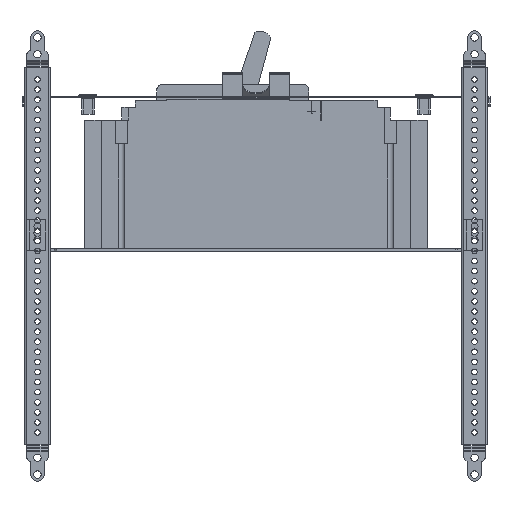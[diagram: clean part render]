
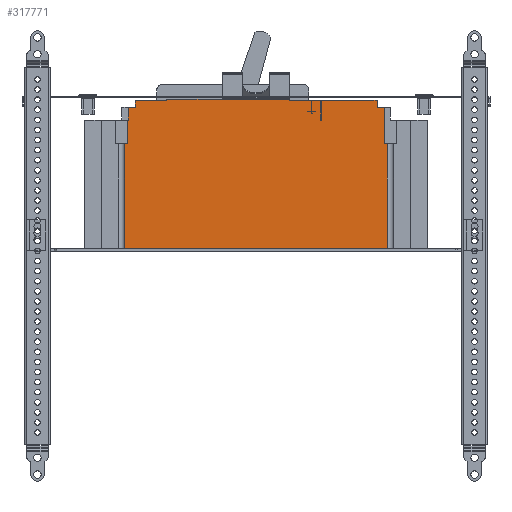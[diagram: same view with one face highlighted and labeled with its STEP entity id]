
A CAD part, left-side view. The second image highlights one B-rep face of the part: STEP entity #317771.
In plain terms, the highlighted planar face has unit normal (-1, 0, 0).
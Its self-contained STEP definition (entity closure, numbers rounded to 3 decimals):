
#315726=CARTESIAN_POINT(' ',(-214.311,-45.217,44.353));
#315731=DIRECTION(' ',(0.,1.,0.));
#315736=VECTOR(' ',#315731,1.);
#315741=LINE('',#315726,#315736);
#315746=CARTESIAN_POINT(' ',(-214.311,-45.217,44.353));
#315747=VERTEX_POINT(' ',#315746);
#315751=CARTESIAN_POINT(' ',(-214.311,-21.717,44.353));
#315752=VERTEX_POINT(' ',#315751);
#315756=EDGE_CURVE(' ',#315747,#315752,#315741,.T.);
#316166=CARTESIAN_POINT(' ',(-214.311,69.283,44.353));
#316167=VERTEX_POINT(' ',#316166);
#316311=CARTESIAN_POINT(' ',(-214.311,92.783,44.353));
#316312=VERTEX_POINT(' ',#316311);
#316326=CARTESIAN_POINT(' ',(-214.311,69.283,44.353));
#316331=DIRECTION(' ',(0.,1.,0.));
#316336=VECTOR(' ',#316331,1.);
#316341=LINE('',#316326,#316336);
#316346=EDGE_CURVE(' ',#316167,#316312,#316341,.T.);
#316521=CARTESIAN_POINT(' ',(-214.311,69.283,45.353));
#316526=DIRECTION(' ',(0.,0.,-1.));
#316531=VECTOR(' ',#316526,1.);
#316536=LINE('',#316521,#316531);
#316541=CARTESIAN_POINT(' ',(-214.311,69.283,45.353));
#316542=VERTEX_POINT(' ',#316541);
#316546=EDGE_CURVE(' ',#316542,#316167,#316536,.T.);
#316631=CARTESIAN_POINT(' ',(-214.311,69.283,45.353));
#316636=DIRECTION(' ',(0.,-1.,0.));
#316641=VECTOR(' ',#316636,1.);
#316646=LINE('',#316631,#316641);
#316651=CARTESIAN_POINT(' ',(-214.311,-21.717,45.353));
#316652=VERTEX_POINT(' ',#316651);
#316656=EDGE_CURVE(' ',#316542,#316652,#316646,.T.);
#316756=CARTESIAN_POINT(' ',(-214.311,-21.717,45.353));
#316761=DIRECTION(' ',(0.,0.,-1.));
#316766=VECTOR(' ',#316761,1.);
#316771=LINE('',#316756,#316766);
#316776=EDGE_CURVE(' ',#316652,#315752,#316771,.T.);
#317121=DIRECTION(' ',(-1.,0.,0.));
#317126=CARTESIAN_POINT(' ',(-214.311,-94.422,-65.647));
#317131=DIRECTION(' ',(0.,-0.,1.));
#317136=AXIS2_PLACEMENT_3D(' ',#317126,#317121,#317131);
#317141=PLANE('NONE',#317136);
#317146=CARTESIAN_POINT(' ',(-214.311,-94.422,12.353));
#317151=DIRECTION(' ',(0.,1.,0.));
#317156=VECTOR(' ',#317151,1.);
#317161=LINE('',#317146,#317156);
#317166=CARTESIAN_POINT(' ',(-214.311,-94.422,12.353));
#317167=VERTEX_POINT(' ',#317166);
#317171=CARTESIAN_POINT(' ',(-214.311,-92.467,12.353));
#317172=VERTEX_POINT(' ',#317171);
#317176=EDGE_CURVE(' ',#317167,#317172,#317161,.T.);
#317181=ORIENTED_EDGE(' ',*,*,#317176,.T.);
#317186=CARTESIAN_POINT(' ',(-214.311,-92.467,39.353));
#317191=DIRECTION(' ',(0.,0.,-1.));
#317196=VECTOR(' ',#317191,1.);
#317201=LINE('',#317186,#317196);
#317206=CARTESIAN_POINT(' ',(-214.311,-92.467,39.353));
#317207=VERTEX_POINT(' ',#317206);
#317211=EDGE_CURVE(' ',#317207,#317172,#317201,.T.);
#317216=ORIENTED_EDGE(' ',*,*,#317211,.F.);
#317221=CARTESIAN_POINT(' ',(-214.311,-86.967,39.353));
#317226=DIRECTION(' ',(0.,-1.,0.));
#317231=VECTOR(' ',#317226,1.);
#317236=LINE('',#317221,#317231);
#317241=CARTESIAN_POINT(' ',(-214.311,-86.967,39.353));
#317242=VERTEX_POINT(' ',#317241);
#317246=EDGE_CURVE(' ',#317242,#317207,#317236,.T.);
#317251=ORIENTED_EDGE(' ',*,*,#317246,.F.);
#317256=CARTESIAN_POINT(' ',(-214.311,-86.967,44.753));
#317261=DIRECTION(' ',(0.,0.,-1.));
#317266=VECTOR(' ',#317261,1.);
#317271=LINE('',#317256,#317266);
#317276=CARTESIAN_POINT(' ',(-214.311,-86.967,44.753));
#317277=VERTEX_POINT(' ',#317276);
#317281=EDGE_CURVE(' ',#317277,#317242,#317271,.T.);
#317286=ORIENTED_EDGE(' ',*,*,#317281,.F.);
#317291=CARTESIAN_POINT(' ',(-214.311,-45.467,44.753));
#317296=DIRECTION(' ',(0.,-1.,0.));
#317301=VECTOR(' ',#317296,1.);
#317306=LINE('',#317291,#317301);
#317311=CARTESIAN_POINT(' ',(-214.311,-45.467,44.753));
#317312=VERTEX_POINT(' ',#317311);
#317316=EDGE_CURVE(' ',#317312,#317277,#317306,.T.);
#317321=ORIENTED_EDGE(' ',*,*,#317316,.F.);
#317326=CARTESIAN_POINT(' ',(-214.311,-45.467,29.853));
#317331=DIRECTION(' ',(0.,0.,1.));
#317336=VECTOR(' ',#317331,1.);
#317341=LINE('',#317326,#317336);
#317346=CARTESIAN_POINT(' ',(-214.311,-45.467,29.853));
#317347=VERTEX_POINT(' ',#317346);
#317351=EDGE_CURVE(' ',#317347,#317312,#317341,.T.);
#317356=ORIENTED_EDGE(' ',*,*,#317351,.F.);
#317361=CARTESIAN_POINT(' ',(-214.311,-45.217,29.853));
#317366=DIRECTION(' ',(0.,-1.,0.));
#317371=VECTOR(' ',#317366,1.);
#317376=LINE('',#317361,#317371);
#317381=CARTESIAN_POINT(' ',(-214.311,-45.217,29.853));
#317382=VERTEX_POINT(' ',#317381);
#317386=EDGE_CURVE(' ',#317382,#317347,#317376,.T.);
#317391=ORIENTED_EDGE(' ',*,*,#317386,.F.);
#317396=CARTESIAN_POINT(' ',(-214.311,-45.217,29.853));
#317401=DIRECTION(' ',(0.,0.,1.));
#317406=VECTOR(' ',#317401,1.);
#317411=LINE('',#317396,#317406);
#317416=EDGE_CURVE(' ',#317382,#315747,#317411,.T.);
#317421=ORIENTED_EDGE(' ',*,*,#317416,.T.);
#317426=ORIENTED_EDGE(' ',*,*,#315756,.T.);
#317431=ORIENTED_EDGE(' ',*,*,#316776,.F.);
#317436=ORIENTED_EDGE(' ',*,*,#316656,.F.);
#317441=ORIENTED_EDGE(' ',*,*,#316546,.T.);
#317446=ORIENTED_EDGE(' ',*,*,#316346,.T.);
#317451=CARTESIAN_POINT(' ',(-214.311,92.783,44.353));
#317456=DIRECTION(' ',(0.,0.,-1.));
#317461=VECTOR(' ',#317456,1.);
#317466=LINE('',#317451,#317461);
#317471=CARTESIAN_POINT(' ',(-214.311,92.783,39.353));
#317472=VERTEX_POINT(' ',#317471);
#317476=EDGE_CURVE(' ',#316312,#317472,#317466,.T.);
#317481=ORIENTED_EDGE(' ',*,*,#317476,.T.);
#317486=CARTESIAN_POINT(' ',(-214.311,92.783,39.353));
#317491=DIRECTION(' ',(0.,1.,0.));
#317496=VECTOR(' ',#317491,1.);
#317501=LINE('',#317486,#317496);
#317506=CARTESIAN_POINT(' ',(-214.311,98.033,39.353));
#317507=VERTEX_POINT(' ',#317506);
#317511=EDGE_CURVE(' ',#317472,#317507,#317501,.T.);
#317516=ORIENTED_EDGE(' ',*,*,#317511,.T.);
#317521=CARTESIAN_POINT(' ',(-214.311,98.033,39.353));
#317526=DIRECTION(' ',(0.,0.,-1.));
#317531=VECTOR(' ',#317526,1.);
#317536=LINE('',#317521,#317531);
#317541=CARTESIAN_POINT(' ',(-214.311,98.033,29.853));
#317542=VERTEX_POINT(' ',#317541);
#317546=EDGE_CURVE(' ',#317507,#317542,#317536,.T.);
#317551=ORIENTED_EDGE(' ',*,*,#317546,.T.);
#317556=CARTESIAN_POINT(' ',(-214.311,98.533,29.853));
#317561=DIRECTION(' ',(0.,-1.,0.));
#317566=VECTOR(' ',#317561,1.);
#317571=LINE('',#317556,#317566);
#317576=CARTESIAN_POINT(' ',(-214.311,98.533,29.853));
#317577=VERTEX_POINT(' ',#317576);
#317581=EDGE_CURVE(' ',#317577,#317542,#317571,.T.);
#317586=ORIENTED_EDGE(' ',*,*,#317581,.F.);
#317591=CARTESIAN_POINT(' ',(-214.311,98.533,29.853));
#317596=DIRECTION(' ',(0.,0.,-1.));
#317601=VECTOR(' ',#317596,1.);
#317606=LINE('',#317591,#317601);
#317611=CARTESIAN_POINT(' ',(-214.311,98.533,12.353));
#317612=VERTEX_POINT(' ',#317611);
#317616=EDGE_CURVE(' ',#317577,#317612,#317606,.T.);
#317621=ORIENTED_EDGE(' ',*,*,#317616,.T.);
#317626=CARTESIAN_POINT(' ',(-214.311,100.487,12.353));
#317631=DIRECTION(' ',(0.,-1.,0.));
#317636=VECTOR(' ',#317631,1.);
#317641=LINE('',#317626,#317636);
#317646=CARTESIAN_POINT(' ',(-214.311,100.487,12.353));
#317647=VERTEX_POINT(' ',#317646);
#317651=EDGE_CURVE(' ',#317647,#317612,#317641,.T.);
#317656=ORIENTED_EDGE(' ',*,*,#317651,.F.);
#317661=CARTESIAN_POINT(' ',(-214.311,100.487,12.353));
#317666=DIRECTION(' ',(0.,0.,-1.));
#317671=VECTOR(' ',#317666,1.);
#317676=LINE('',#317661,#317671);
#317681=CARTESIAN_POINT(' ',(-214.311,100.487,-65.647));
#317682=VERTEX_POINT(' ',#317681);
#317686=EDGE_CURVE(' ',#317647,#317682,#317676,.T.);
#317691=ORIENTED_EDGE(' ',*,*,#317686,.T.);
#317696=CARTESIAN_POINT(' ',(-214.311,-94.422,-65.647));
#317701=DIRECTION(' ',(0.,1.,0.));
#317706=VECTOR(' ',#317701,1.);
#317711=LINE('',#317696,#317706);
#317716=CARTESIAN_POINT(' ',(-214.311,-94.422,-65.647));
#317717=VERTEX_POINT(' ',#317716);
#317721=EDGE_CURVE(' ',#317717,#317682,#317711,.T.);
#317726=ORIENTED_EDGE(' ',*,*,#317721,.F.);
#317731=CARTESIAN_POINT(' ',(-214.311,-94.422,-65.647));
#317736=DIRECTION(' ',(0.,0.,1.));
#317741=VECTOR(' ',#317736,1.);
#317746=LINE('',#317731,#317741);
#317751=EDGE_CURVE(' ',#317717,#317167,#317746,.T.);
#317756=ORIENTED_EDGE(' ',*,*,#317751,.T.);
#317761=EDGE_LOOP(' ',(#317181,#317216,#317251,#317286,#317321,#317356,#317391,#317421,#317426,#317431,#317436,#317441,#317446,#317481,#317516,#317551,#317586,#317621,#317656,#317691,#317726,#317756));
#317766=FACE_OUTER_BOUND(' ',#317761,.T.);
#317771=ADVANCED_FACE('NONE',(#317766),#317141,.T.);
